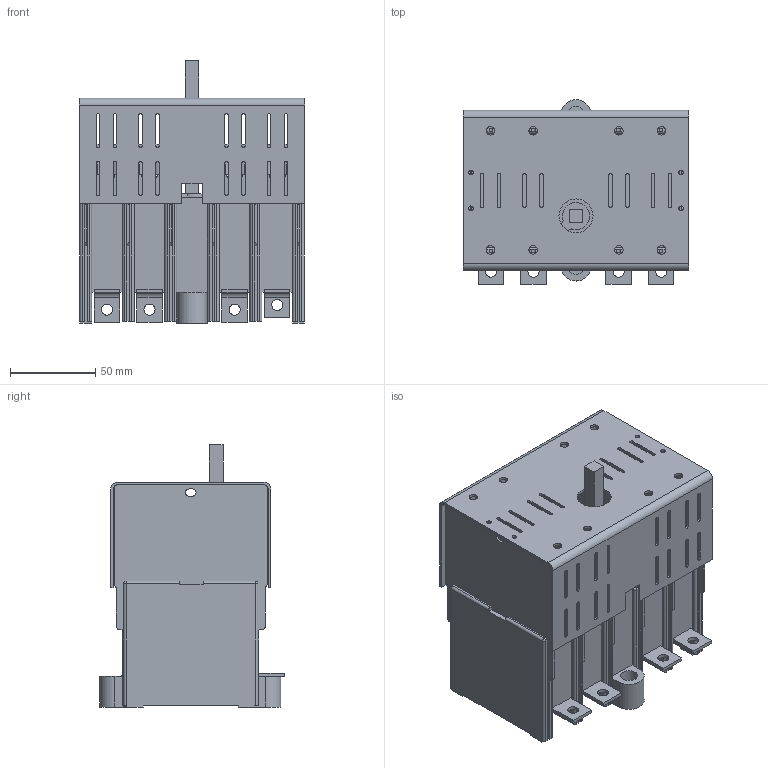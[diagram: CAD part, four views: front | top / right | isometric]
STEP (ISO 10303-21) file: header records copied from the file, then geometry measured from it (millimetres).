
FILE_DESCRIPTION(/* description */ (''),/* implementation_level */ '2;1');
FILE_NAME(/* name */ 'RAB 000 P3 NA, P4 A.stp',/* time_stamp */ '2021-08-19T09:40:06+02:00',/* author */ (''),/* organization */ (''),/* preprocessor_version */ 'ST-DEVELOPER v18.1',/* originating_system */ 'SIEMENS PLM Software NX 1965',/* authorisation */ '');
FILE_SCHEMA (('AUTOMOTIVE_DESIGN { 1 0 10303 214 3 1 1 1 }'));
Length unit declared in the file: millimetre
Products named in the file (1): RAB 000 P3 NA, P4 A_stp
Bounding box: 132.5 x 108.51 x 154 mm (x, y, z)
Volume: 734897.7 mm3; surface area: 210604.2 mm2
Topology: 1 solids, 1 shells, 1122 faces, 3186 edges, 2048 vertices
Faces by surface type: plane 735, cylinder 363, sphere 23, bspline 1
Full cylindrical faces by diameter (mm): 2.7 x4, 5 x8, 5.8 x2, 6.5 x8, 10 x2, 20 x1
Entity records: 36210 total; most frequent: CARTESIAN_POINT 6674, ORIENTED_EDGE 6254, DIRECTION 5976, EDGE_CURVE 3127, LINE 2308, VECTOR 2308, VERTEX_POINT 2038, AXIS2_PLACEMENT_3D 1834
